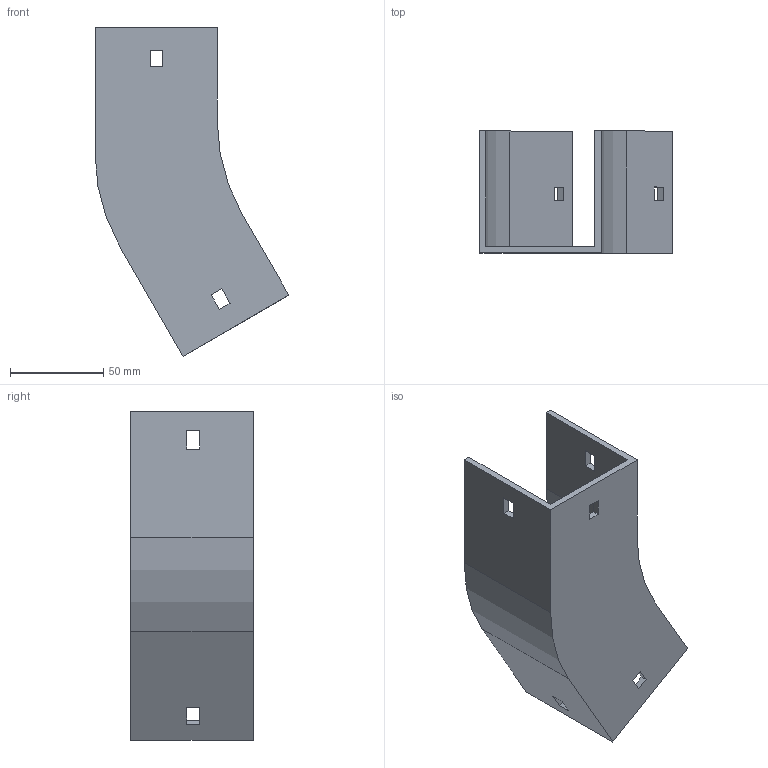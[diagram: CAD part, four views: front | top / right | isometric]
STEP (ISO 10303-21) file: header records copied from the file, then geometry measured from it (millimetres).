
FILE_DESCRIPTION (( 'STEP AP214' ), '1' );
FILE_NAME ('12B1H065.step', '2025-02-21T09:34:47', ( '' ), ( '' ), 'SwSTEP 2.0', 'SolidWorks 2023', '' );
FILE_SCHEMA (( 'AUTOMOTIVE_DESIGN' ));
Length unit declared in the file: millimetre
Products named in the file (1): 12B1H065
Bounding box: 103.9 x 65.5 x 176.05 mm (x, y, z)
Volume: 111585.6 mm3; surface area: 66972.1 mm2
Topology: 1 solids, 1 shells, 42 faces, 120 edges, 80 vertices
Faces by surface type: plane 38, cylinder 4
Entity records: 1399 total; most frequent: CARTESIAN_POINT 243, ORIENTED_EDGE 240, DIRECTION 214, EDGE_CURVE 120, VECTOR 112, LINE 112, VERTEX_POINT 80, EDGE_LOOP 54
